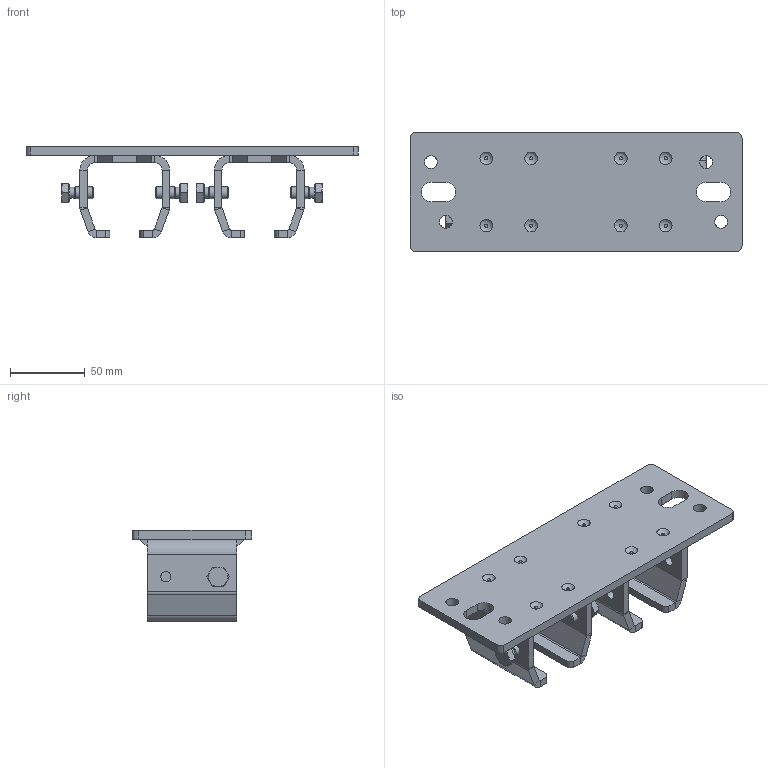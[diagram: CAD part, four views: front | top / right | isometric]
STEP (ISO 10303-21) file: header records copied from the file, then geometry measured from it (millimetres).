
FILE_DESCRIPTION(/* description */ ('Doppelte Deckenbefestigung Nr.2'),/* implementation_level */ '2;1');
FILE_NAME(/* name */ 'Q:\sge-ma\Produktmanagement-STB\STB\Workspace\stp\010333055.stp',/* time_stamp */ '2015-03-10T13:03:25+01:00',/* author */ ('avschreier'),/* organization */ (''),/* preprocessor_version */ 'ST-DEVELOPER v15.6',/* originating_system */ 'Autodesk Inventor 2015',/* authorisation */ '');
FILE_SCHEMA (('CONFIG_CONTROL_DESIGN'));
Length unit declared in the file: millimetre
Products named in the file (5): 010333055_Schweißnähte; 337000285; 335140020; DIN_EN_ISO_4017-M8x16_en; 010333055
Bounding box: 222 x 80 x 61 mm (x, y, z)
Volume: 209988.8 mm3; surface area: 90540.7 mm2
Topology: 15 solids, 15 shells, 306 faces, 646 edges, 394 vertices
Faces by surface type: plane 190, cylinder 68, cone 32, bspline 16
Full cylindrical faces by diameter (mm): 6.647 x6, 6.8 x6, 7.323 x4, 8 x4, 8.5 x4, 11.4 x4
Entity records: 5202 total; most frequent: CARTESIAN_POINT 1262, DIRECTION 814, ORIENTED_EDGE 722, EDGE_CURVE 361, AXIS2_PLACEMENT_3D 305, VERTEX_POINT 237, EDGE_LOOP 236, LINE 204
